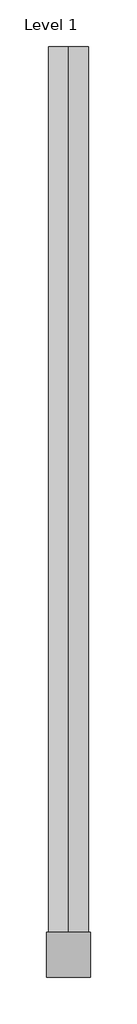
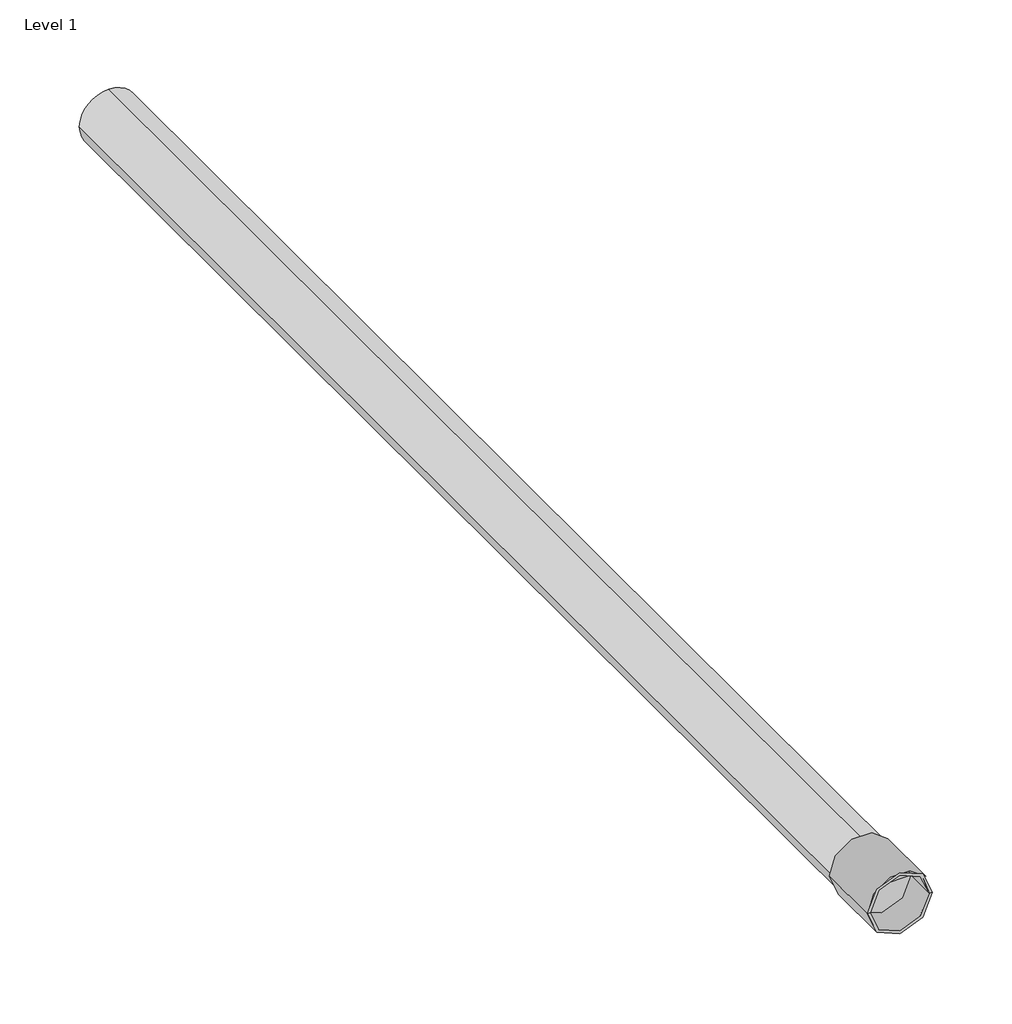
# One storey, incomplete: 1 pipe fitting, 1 pipe segment.
"""IFC4 building model written with IfcOpenShell, lengths in millimetres."""

import ifcopenshell
import ifcopenshell.guid

model = None  # the IFC model being written
_history = None  # IfcOwnerHistory: only IFC2X3 demands one
_inside = {}  # id of a spatial element -> (the spatial element, [elements in it])
_under = {}  # id of a project, library or spatial element -> (it, [spatial elements below it])
_declared = {}  # id of a project -> (the project, [libraries it declares])
_typed = {}  # id of a type object -> (the type object, [elements of that type])
_made_of = {}  # id of a material, layer set ... -> (it, [elements and type objects made of it])


def new_model(schema):
    """Start an empty IFC model of exactly this schema.

    Asked for "IFC4X3", IfcOpenShell would pick the latest addendum, in which some entities
    have other attributes; the version numbers below select the first issue.
    IFC2X3 requires an IfcOwnerHistory on every rooted entity: one is made here for all.
    """
    global model, _history
    if schema == "IFC4X3":
        model = ifcopenshell.file(schema_version=(4, 3, 0, 0))
    else:
        model = ifcopenshell.file(schema=schema)
    _inside.clear()
    _under.clear()
    _declared.clear()
    _typed.clear()
    _made_of.clear()
    _history = None
    if model.schema == "IFC2X3":
        org = make("IfcOrganization", Name="unknown")
        user = make(
            "IfcPersonAndOrganization",
            ThePerson=make("IfcPerson", FamilyName="unknown"),
            TheOrganization=org,
        )
        app = make(
            "IfcApplication",
            ApplicationDeveloper=org,
            Version="unknown",
            ApplicationFullName="unknown",
            ApplicationIdentifier="unknown",
        )
        _history = make(
            "IfcOwnerHistory",
            OwningUser=user,
            OwningApplication=app,
            ChangeAction="ADDED",
            CreationDate=0,
        )
    return model


def make(cls, **values):
    """One entity of the class cls with the attributes given. An attribute that is None is left unset."""
    return model.create_entity(
        cls, **{name: value for name, value in values.items() if value is not None}
    )


def rooted(cls, **values):
    """An entity with a GlobalId (a new one), such as an element, a storey or a relation."""
    return make(cls, GlobalId=ifcopenshell.guid.new(), OwnerHistory=_history, **values)


def si_unit(unit_type, name, prefix=None):
    """IfcSIUnit, for example si_unit("LENGTHUNIT", "METRE", prefix="MILLI")."""
    return make("IfcSIUnit", UnitType=unit_type, Prefix=prefix, Name=name)


def assignment(units):
    """IfcUnitAssignment: the units of a project."""
    return None if units is None else make("IfcUnitAssignment", Units=units)


def point(xyz):
    """IfcCartesianPoint."""
    return None if xyz is None else make("IfcCartesianPoint", Coordinates=xyz)


def direction(xyz):
    """IfcDirection."""
    return None if xyz is None else make("IfcDirection", DirectionRatios=xyz)


def frame(location, z_axis=None, x_axis=None):
    """IfcAxis2Placement3D, a coordinate frame: its origin and axes. An axis left out is left unset."""
    return make(
        "IfcAxis2Placement3D",
        Location=point(location),
        Axis=direction(z_axis),
        RefDirection=direction(x_axis),
    )


def frame_2d(location, x_axis=None):
    """IfcAxis2Placement2D, a coordinate frame in the plane: its origin and x axis."""
    return make(
        "IfcAxis2Placement2D", Location=point(location), RefDirection=direction(x_axis)
    )


def origin():
    """The frame at (0, 0, 0) with its axes left unset."""
    return frame((0.0, 0.0, 0.0))


def place(relative_to, where):
    """IfcLocalPlacement: puts the frame where relative to a parent placement (None: the world)."""
    return make(
        "IfcLocalPlacement", PlacementRelTo=relative_to, RelativePlacement=where
    )


def context(
    kind, dimensions, precision=None, world=None, true_north=None, identifier=None
):
    """IfcGeometricRepresentationContext, for example the 3D "Model" context."""
    return make(
        "IfcGeometricRepresentationContext",
        ContextIdentifier=identifier,
        ContextType=kind,
        CoordinateSpaceDimension=dimensions,
        Precision=precision,
        WorldCoordinateSystem=world,
        TrueNorth=true_north,
    )


def project(units=None, contexts=None):
    """IfcProject with its units and contexts."""
    return rooted(
        "IfcProject",
        Name="project",
        RepresentationContexts=contexts,
        UnitsInContext=assignment(units),
    )


def spatial(cls, under=None, at=None, **own):
    """A site, building, storey or space (cls), placed at a placement, below another one or the project."""
    s = rooted(cls, ObjectPlacement=at, **own)
    if under is not None:
        _under.setdefault(under.id(), (under, []))[1].append(s)
    return s


def polyline(points):
    """IfcPolyline through the points."""
    return make("IfcPolyline", Points=[point(p) for p in points])


def circle_curve(where, radius):
    """IfcCircle in the frame where."""
    return make("IfcCircle", Position=where, Radius=radius)


def trimmed(basis, trim1, trim2, sense, master):
    """IfcTrimmedCurve: the piece of a basis curve between two trims."""
    return make(
        "IfcTrimmedCurve",
        BasisCurve=basis,
        Trim1=trim1,
        Trim2=trim2,
        SenseAgreement=sense,
        MasterRepresentation=master,
    )


def segment(curve, same_sense, transition):
    """IfcCompositeCurveSegment."""
    return make(
        "IfcCompositeCurveSegment",
        Transition=transition,
        SameSense=same_sense,
        ParentCurve=curve,
    )


def composite_curve(segments, self_intersect=None):
    """IfcCompositeCurve: segments joined end to end."""
    return make("IfcCompositeCurve", Segments=segments, SelfIntersect=self_intersect)


def outline(outer, holes=None, kind="AREA"):
    """IfcArbitraryClosedProfileDef: a profile drawn as a closed curve; with holes, ...WithVoids."""
    if holes is None:
        return make("IfcArbitraryClosedProfileDef", ProfileType=kind, OuterCurve=outer)
    return make(
        "IfcArbitraryProfileDefWithVoids",
        ProfileType=kind,
        OuterCurve=outer,
        InnerCurves=holes,
    )


def extrude(swept, where, along, depth):
    """IfcExtrudedAreaSolid: the profile swept, set in the frame where, extruded along a direction by depth."""
    return make(
        "IfcExtrudedAreaSolid",
        SweptArea=swept,
        Position=where,
        ExtrudedDirection=direction(along),
        Depth=depth,
    )


def shape(context_of_items, identifier, shape_type, items):
    """IfcShapeRepresentation: the items that make up one representation, for example the "Body"."""
    return make(
        "IfcShapeRepresentation",
        ContextOfItems=context_of_items,
        RepresentationIdentifier=identifier,
        RepresentationType=shape_type,
        Items=items,
    )


def source(mapping_origin, context_of_items, identifier, shape_type, items):
    """IfcRepresentationMap: a shape defined once, which mapped items show again and again."""
    return make(
        "IfcRepresentationMap",
        MappingOrigin=mapping_origin,
        MappedRepresentation=shape(context_of_items, identifier, shape_type, items),
    )


def transform(
    local_origin,
    x_axis=None,
    y_axis=None,
    z_axis=None,
    scale=None,
    scale2=None,
    scale3=None,
    uniform=True,
):
    """IfcCartesianTransformationOperator3D, or its non-uniform kind. x_axis, y_axis, z_axis: its Axis1, 2, 3."""
    if uniform:
        return make(
            "IfcCartesianTransformationOperator3D",
            Axis1=direction(x_axis),
            Axis2=direction(y_axis),
            LocalOrigin=point(local_origin),
            Scale=scale,
            Axis3=direction(z_axis),
        )
    return make(
        "IfcCartesianTransformationOperator3DnonUniform",
        Axis1=direction(x_axis),
        Axis2=direction(y_axis),
        LocalOrigin=point(local_origin),
        Scale=scale,
        Axis3=direction(z_axis),
        Scale2=scale2,
        Scale3=scale3,
    )


def mapped(mapping_source, mapping_target):
    """IfcMappedItem: shows the shape of a source again, moved by a transform."""
    return make(
        "IfcMappedItem", MappingSource=mapping_source, MappingTarget=mapping_target
    )


def made_of(thing, what):
    """Note that an element or type object is made of a material, layer set ...; save() writes the relation."""
    if what is not None:
        _made_of.setdefault(what.id(), (what, []))[1].append(thing)
    return thing


def element(
    cls,
    number,
    at=None,
    inside=None,
    cuts=None,
    type_object=None,
    material=None,
    context=None,
    identifier="Body",
    shape_type=None,
    held_by="IfcProductDefinitionShape",
    body=None,
    shapes=None,
    **own,
):
    """One element of the class cls, such as IfcWall. Its Tag is "e" and its number.

    at: its placement. inside: the storey or other place that contains it. cuts: it is an
    opening in that element (IfcRelVoidsElement). A single representation is given by context,
    identifier, shape_type and body (its items); several are given by shapes. held_by: the class
    of the entity that holds the representations. save() writes the other relations.
    """
    e = rooted(cls, Tag="e%d" % number, ObjectPlacement=at, **own)
    if body is not None:
        shapes = [shape(context, identifier, shape_type, body)]
    if shapes is not None:
        e.Representation = make(held_by, Representations=shapes)
    if inside is not None:
        _inside.setdefault(inside.id(), (inside, []))[1].append(e)
    if cuts is not None:
        rooted(
            "IfcRelVoidsElement", RelatingBuildingElement=cuts, RelatedOpeningElement=e
        )
    if type_object is not None:
        _typed.setdefault(type_object.id(), (type_object, []))[1].append(e)
    return made_of(e, material)


def aggregate(whole, parts):
    """IfcRelAggregates: a whole, such as a stair, and the parts it consists of."""
    return rooted("IfcRelAggregates", RelatingObject=whole, RelatedObjects=parts)


def save(model, path):
    """Write the relations noted so far, then the file.

    IfcRelAggregates (storeys below a building ...), IfcRelContainedInSpatialStructure (elements
    in a storey), IfcRelDefinesByType, IfcRelAssociatesMaterial and IfcRelDeclares: one each for
    every whole, place, type object, material and project.
    """
    for whole, parts in _under.values():
        aggregate(whole, parts)
    for where, things in _inside.values():
        rooted(
            "IfcRelContainedInSpatialStructure",
            RelatedElements=things,
            RelatingStructure=where,
        )
    for kind, things in _typed.values():
        rooted("IfcRelDefinesByType", RelatedObjects=things, RelatingType=kind)
    for what, things in _made_of.values():
        rooted("IfcRelAssociatesMaterial", RelatedObjects=things, RelatingMaterial=what)
    for by, libraries in _declared.values():
        rooted("IfcRelDeclares", RelatingContext=by, RelatedDefinitions=libraries)
    model.write(path)


def plane_surface(at):
    """IfcPlane: the flat surface through the origin of the frame at, square to its z axis."""
    return make("IfcPlane", Position=at)


def cylinder_surface(at, radius):
    """IfcCylindricalSurface: all points at the distance radius from the z axis of the frame at."""
    return make("IfcCylindricalSurface", Position=at, Radius=radius)


def revolved_surface(curve, axis_point, axis_direction):
    """IfcSurfaceOfRevolution: the curve turned about the line through axis_point along axis_direction."""
    return make(
        "IfcSurfaceOfRevolution",
        SweptCurve=make("IfcArbitraryOpenProfileDef", ProfileType="CURVE", Curve=curve),
        AxisPosition=make("IfcAxis1Placement", Location=point(axis_point), Axis=direction(axis_direction)),
    )


def advanced_brep(points, edges, surfaces, faces):
    """IfcAdvancedBrep: a solid bounded by faces that lie on surfaces and meet in shared edges.

    An edge is (start, end): straight between two places in points (the first is 0);
    or (start, end, curve); or (start, end, curve, False) where it runs against its curve.
    A face is (place in surfaces, loops), or (place, loops, False) where it looks against
    its surface's normal. A loop lists edges by number (the first is 1), with a minus sign
    where the edge is run from its end to its start. The first loop is the outer one.
    """
    corners = [point(p) for p in points]
    vertices = [make("IfcVertexPoint", VertexGeometry=c) for c in corners]
    made = []
    for start, end, *more in edges:
        made.append(
            make(
                "IfcEdgeCurve",
                EdgeStart=vertices[start],
                EdgeEnd=vertices[end],
                EdgeGeometry=more[0] if more else make("IfcPolyline", Points=[corners[start], corners[end]]),
                SameSense=more[1] if len(more) > 1 else True,
            )
        )
    hull = []
    for where, loops, *sense in faces:
        bounds = []
        for j, loop in enumerate(loops):
            ring = [make("IfcOrientedEdge", EdgeElement=made[abs(k) - 1], Orientation=k > 0) for k in loop]
            bounds.append(
                make(
                    "IfcFaceOuterBound" if j == 0 else "IfcFaceBound",
                    Bound=make("IfcEdgeLoop", EdgeList=ring),
                    Orientation=True,
                )
            )
        hull.append(make("IfcAdvancedFace", Bounds=bounds, FaceSurface=surfaces[where], SameSense=sense[0] if sense else True))
    return make("IfcAdvancedBrep", Outer=make("IfcClosedShell", CfsFaces=hull))


def white_2de62ab8(model_context):
    return source(origin(), model_context, "Body", "AdvancedBrep", [
        advanced_brep(
        [(-23.0, -21.35, 0.0), (-23.0, 21.35, 0.0), (-23.0, 23.55, 0.0), (-23.0, -23.55, 0.0), (0.0, -21.35, 0.0), (0.0, 21.35, 0.0), (0.0, 0.0, 0.0), (2.0, -21.35, 0.0), (2.0, 21.35, 0.0), (2.0, 0.0, 0.0), (25.0, -21.35, 0.0), (25.0, 21.35, 0.0), (25.0, -23.55, 0.0), (25.0, 23.55, 0.0)],
        [
            (0, 1, circle_curve(frame((-23.0, 0.0, 0.0), z_axis=(1.0, 0.0, 0.0), x_axis=(0.0, 1.0, 0.0)), 21.35)),
            (1, 2),
            (2, 3, circle_curve(frame((-23.0, 0.0, 0.0), z_axis=(-1.0, 0.0, 0.0), x_axis=(0.0, 1.0, 0.0)), 23.55)),
            (3, 0),
            (1, 0, circle_curve(frame((-23.0, 0.0, 0.0), z_axis=(1.0, 0.0, 0.0), x_axis=(0.0, 1.0, 0.0)), 21.35)),
            (3, 2, circle_curve(frame((-23.0, 0.0, 0.0), z_axis=(-1.0, 0.0, 0.0), x_axis=(0.0, 1.0, 0.0)), 23.55)),
            (4, 5, circle_curve(frame((0.0, 0.0, 0.0), z_axis=(1.0, 0.0, 0.0), x_axis=(0.0, 1.0, 0.0)), 21.35)),
            (5, 1),
            (0, 4),
            (5, 4, circle_curve(frame((0.0, 0.0, 0.0), z_axis=(1.0, 0.0, 0.0), x_axis=(0.0, 1.0, 0.0)), 21.35)),
            (6, 5),
            (4, 6),
            (7, 8, circle_curve(frame((2.0, 0.0, 0.0), z_axis=(1.0, 0.0, 0.0), x_axis=(0.0, 1.0, 0.0)), 21.35)),
            (8, 9),
            (9, 7),
            (8, 7, circle_curve(frame((2.0, 0.0, 0.0), z_axis=(1.0, 0.0, 0.0), x_axis=(0.0, 1.0, 0.0)), 21.35)),
            (10, 11, circle_curve(frame((25.0, 0.0, 0.0), z_axis=(1.0, 0.0, 0.0), x_axis=(0.0, 1.0, 0.0)), 21.35)),
            (11, 8),
            (7, 10),
            (11, 10, circle_curve(frame((25.0, 0.0, 0.0), z_axis=(1.0, 0.0, 0.0), x_axis=(0.0, 1.0, 0.0)), 21.35)),
            (12, 13, circle_curve(frame((25.0, 0.0, 0.0), z_axis=(1.0, 0.0, 0.0), x_axis=(0.0, 1.0, 0.0)), 23.55)),
            (13, 11),
            (10, 12),
            (13, 12, circle_curve(frame((25.0, 0.0, 0.0), z_axis=(1.0, 0.0, 0.0), x_axis=(0.0, 1.0, 0.0)), 23.55)),
            (2, 13),
            (12, 3),
        ],
        [
            plane_surface(frame((-23.0, 0.0, 0.0), z_axis=(-1.0, 0.0, 0.0), x_axis=(0.0, 1.0, 0.0))),
            revolved_surface(polyline([(-23.0, 21.35, 0.0), (0.0, 21.35, 0.0)]), (1953.25, 0.0, 0.0), (-1.0, 0.0, 0.0)),
            plane_surface(frame((0.0, 0.0, 0.0), z_axis=(-1.0, 0.0, 0.0), x_axis=(0.0, 1.0, 0.0))),
            plane_surface(frame((2.0, 0.0, 0.0), z_axis=(1.0, 0.0, 0.0), x_axis=(0.0, 1.0, 0.0))),
            revolved_surface(polyline([(2.0, 21.35, 0.0), (25.0, 21.35, 0.0)]), (1953.25, 0.0, 0.0), (-1.0, 0.0, 0.0)),
            plane_surface(frame((25.0, 0.0, 0.0), z_axis=(1.0, 0.0, 0.0), x_axis=(0.0, 1.0, 0.0))),
            cylinder_surface(frame((1953.25, 0.0, 0.0), z_axis=(-1.0, 0.0, 0.0), x_axis=(0.0, 1.0, 0.0)), 23.55),
        ],
        [
            (0, [[1, 2, 3, 4]]),
            (0, [[5, -4, 6, -2]]),
            (1, [[7, 8, -1, 9]]),
            (1, [[10, -9, -5, -8]]),
            (2, [[11, -7, 12]]),
            (2, [[-12, -10, -11]]),
            (3, [[13, 14, 15]]),
            (3, [[16, -15, -14]]),
            (4, [[17, 18, -13, 19]]),
            (4, [[20, -19, -16, -18]]),
            (5, [[21, 22, -17, 23]]),
            (5, [[24, -23, -20, -22]]),
            (6, [[-3, 25, -21, 26]]),
            (6, [[-6, -26, -24, -25]]),
        ],
    ),
    ])


model = new_model("IFC4")

# Units and contexts
model_context = context("Model", 3, world=origin())
ifc_project = project(units=[si_unit("LENGTHUNIT", "METRE", prefix="MILLI")], contexts=[model_context])

# Site, building, storey
site = spatial("IfcSite", under=ifc_project)
building = spatial("IfcBuilding", under=site)
storey = spatial("IfcBuildingStorey", under=building, Name="Level 1", Elevation=0.0)

# Pipe fitting
placement = place(None, origin())
white_shape = white_2de62ab8(model_context)
element("IfcPipeFitting", 1, ObjectType="Wavin_PipeFitting_S&WAbsSwSocketDouble : White", at=placement, inside=storey, context=model_context, shape_type="MappedRepresentation", body=[
    mapped(white_shape, transform((24838.9725957, -5754.1329024, 150.0), x_axis=(0.0, -1.0, 0.0), y_axis=(1.0, 0.0, 0.0), z_axis=(0.0, 0.0, 1.0))),
])

# Pipe segment
element("IfcPipeSegment", 2, ObjectType="Wavin_Pipe_Waste", at=placement, inside=storey, context=model_context, shape_type="SweptSolid", body=[
    extrude(outline(composite_curve([segment(trimmed(circle_curve(frame_2d((150.0, 24838.9725957)), 21.35), [point((150.0, 24860.3225957))], [point((171.35, 24838.9725957))], False, "CARTESIAN"), True, "CONTINUOUS"), segment(trimmed(circle_curve(frame_2d((150.0, 24838.9725957)), 21.35), [point((171.35, 24838.9725957))], [point((150.0, 24817.6225957))], False, "CARTESIAN"), True, "CONTINUOUS"), segment(trimmed(circle_curve(frame_2d((150.0, 24838.9725957)), 21.35), [point((150.0, 24817.6225957))], [point((128.65, 24838.9725957))], False, "CARTESIAN"), True, "CONTINUOUS"), segment(trimmed(circle_curve(frame_2d((150.0, 24838.9725957)), 21.35), [point((128.65, 24838.9725957))], [point((150.0, 24860.3225957))], False, "CARTESIAN"), True, "CONTINUOUS")], self_intersect=False)), frame((0.0, -5754.1329024, 0.0), z_axis=(0.0, 1.0, 0.0), x_axis=(0.0, 0.0, 1.0)), (0.0, 0.0, 1.0), 971.0),
])

save(model, "model.ifc")
